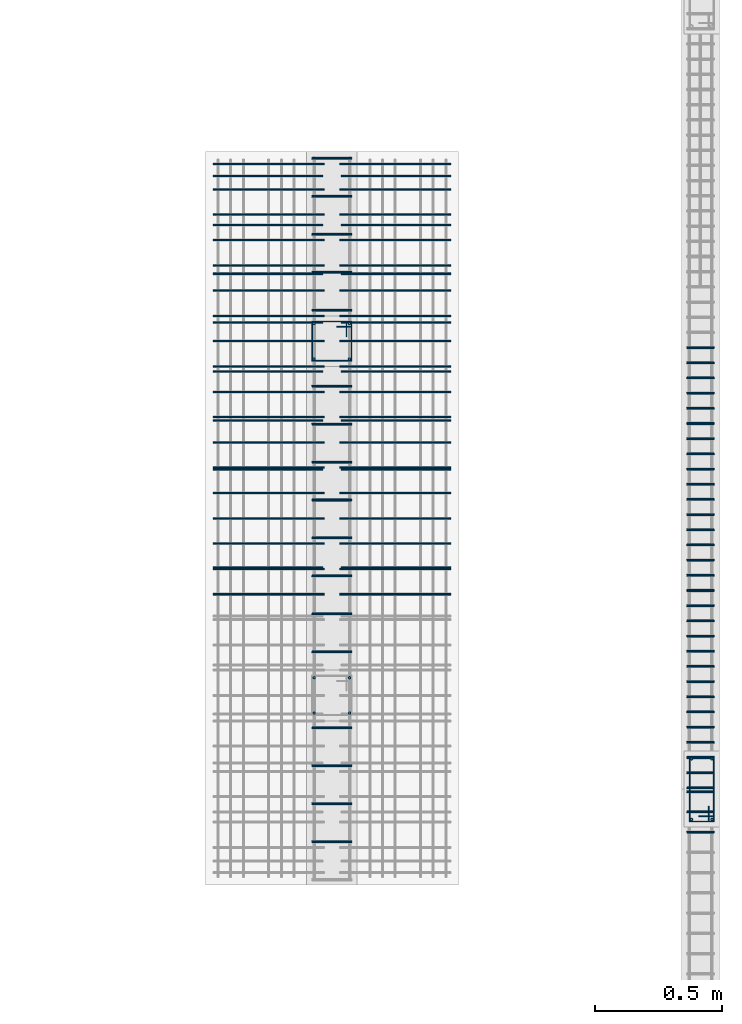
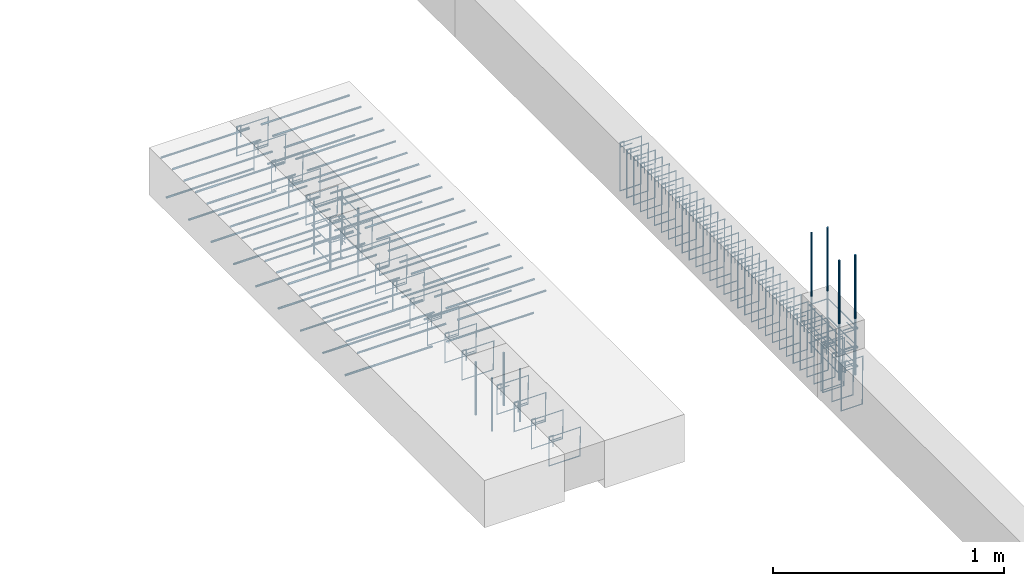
# One storey, part 143 of 150: 122 reinforcing bars.
"""IFC4 building model written with IfcOpenShell, lengths in centimetres."""

from ifc_helpers import new_model, entity, si_unit, derived_unit, frame, origin_with_axes, place, context, project, spatial, source, transform, mapped, element, save


model = new_model("IFC4")

# Units and contexts
model_context = context("Model", 3, precision=1e-05, world=origin_with_axes(), identifier="Body")
ifc_project = project(units=[si_unit("LENGTHUNIT", "METRE", prefix="CENTI"), si_unit("VOLUMEUNIT", "CUBIC_METRE"), si_unit("AREAUNIT", "SQUARE_METRE"), si_unit("POWERUNIT", "WATT"), si_unit("LUMINOUSFLUXUNIT", "LUMEN"), si_unit("ELECTRICCURRENTUNIT", "AMPERE"), si_unit("PRESSUREUNIT", "PASCAL", prefix="KILO"), si_unit("MASSUNIT", "GRAM", prefix="KILO"), si_unit("PLANEANGLEUNIT", "RADIAN"), derived_unit("VOLUMETRICFLOWRATEUNIT", [(si_unit("LENGTHUNIT", "METRE"), 3), (si_unit("TIMEUNIT", "SECOND"), -1)])], contexts=[model_context])

# Site, building, storey
site_placement = place(None, frame((-4000.0, 0.0, 0.0), z_axis=(0.0, 0.0, 1.0), x_axis=(1.0, 0.0, 0.0)))
site = spatial("IfcSite", under=ifc_project, at=site_placement, Name="PADRÃO")
building_placement = place(site_placement, frame((0.0, 0.0, -14.0)))
building = spatial("IfcBuilding", under=site, at=building_placement, Name="CRECHE PRÉ-ESCOLA TIPO 2")
placement = place(building_placement, origin_with_axes())
storey_placement = place(placement, frame((0.0, 0.0, 30.0), z_axis=(0.0, 0.0, 1.0), x_axis=(1.0, 0.0, 0.0)))
storey = spatial("IfcBuildingStorey", under=building, at=storey_placement, Name="VIGA BALDRAME", CompositionType="ELEMENT", Elevation=16.0)

# Reinforcing bars
shared_shape_1 = source(origin_with_axes(), model_context, "Body", "AdvancedSweptSolid", [
    entity("IfcSweptDiskSolid", entity("IfcCompositeCurve", [entity("IfcCompositeCurveSegment", "CONTINUOUS", True, entity("IfcPolyline", [entity("IfcCartesianPoint", [4.25, 21.75, 0.0]), entity("IfcCartesianPoint", [4.25, 27.75, 0.0])])), entity("IfcCompositeCurveSegment", "CONTINUOUS", True, entity("IfcPolyline", [entity("IfcCartesianPoint", [4.25, 27.75, 0.0]), entity("IfcCartesianPoint", [2.25, 27.75, 0.0])])), entity("IfcCompositeCurveSegment", "CONTINUOUS", True, entity("IfcPolyline", [entity("IfcCartesianPoint", [2.25, 27.75, 0.0]), entity("IfcCartesianPoint", [2.25, 2.25, 0.0])])), entity("IfcCompositeCurveSegment", "CONTINUOUS", True, entity("IfcPolyline", [entity("IfcCartesianPoint", [2.25, 2.25, 0.0]), entity("IfcCartesianPoint", [11.75, 2.25, 0.0])])), entity("IfcCompositeCurveSegment", "CONTINUOUS", True, entity("IfcPolyline", [entity("IfcCartesianPoint", [11.75, 2.25, 0.0]), entity("IfcCartesianPoint", [11.75, 27.75, -0.5])])), entity("IfcCompositeCurveSegment", "CONTINUOUS", True, entity("IfcPolyline", [entity("IfcCartesianPoint", [11.75, 27.75, -0.5]), entity("IfcCartesianPoint", [2.25, 27.75, -0.5])])), entity("IfcCompositeCurveSegment", "CONTINUOUS", True, entity("IfcPolyline", [entity("IfcCartesianPoint", [2.25, 27.75, -0.5]), entity("IfcCartesianPoint", [2.25, 25.75, -0.5])])), entity("IfcCompositeCurveSegment", "CONTINUOUS", True, entity("IfcPolyline", [entity("IfcCartesianPoint", [2.25, 25.75, -0.5]), entity("IfcCartesianPoint", [8.25, 25.75, -0.5])]))], False), 0.25),
])
for number, where, z_axis, x_axis, name in (
    (1, (3999.0, 3243.0, -15.0), (0.0, 0.0, 1.0), (-1.0, 0.0, 0.0), "P57 - Estribo"),
    (2, (3999.0, 3243.0, -25.0), (0.0, 0.0, 1.0), (-1.0, 0.0, 0.0), "P57 - Estribo"),
    (3, (3999.0, 3243.0, -5.0), (0.0, 0.0, 1.0), (-1.0, 0.0, 0.0), "P57 - Estribo"),
):
    element("IfcReinforcingBar", number, at=place(storey_placement, frame(where, z_axis=z_axis, x_axis=x_axis)), inside=storey, Name=name, BarLength=0.0, CrossSectionArea=1.9634954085e-05, NominalDiameter=0.5, PredefinedType="MAIN", context=model_context, shape_type="MappedRepresentation", body=[
        mapped(shared_shape_1, transform((0.0, 0.0, 0.0), scale=1.0)),
    ])
shared_shape_2 = source(origin_with_axes(), model_context, "Body", "AdvancedSweptSolid", [
    entity("IfcSweptDiskSolid", entity("IfcCompositeCurve", [entity("IfcCompositeCurveSegment", "CONTINUOUS", True, entity("IfcPolyline", [entity("IfcCartesianPoint", [4.25, 11.75, 0.0]), entity("IfcCartesianPoint", [4.25, 17.75, 0.0])])), entity("IfcCompositeCurveSegment", "CONTINUOUS", True, entity("IfcPolyline", [entity("IfcCartesianPoint", [4.25, 17.75, 0.0]), entity("IfcCartesianPoint", [2.25, 17.75, 0.0])])), entity("IfcCompositeCurveSegment", "CONTINUOUS", True, entity("IfcPolyline", [entity("IfcCartesianPoint", [2.25, 17.75, 0.0]), entity("IfcCartesianPoint", [2.25, 2.25, 0.0])])), entity("IfcCompositeCurveSegment", "CONTINUOUS", True, entity("IfcPolyline", [entity("IfcCartesianPoint", [2.25, 2.25, 0.0]), entity("IfcCartesianPoint", [17.75, 2.25, 0.0])])), entity("IfcCompositeCurveSegment", "CONTINUOUS", True, entity("IfcPolyline", [entity("IfcCartesianPoint", [17.75, 2.25, 0.0]), entity("IfcCartesianPoint", [17.75, 17.75, -0.5])])), entity("IfcCompositeCurveSegment", "CONTINUOUS", True, entity("IfcPolyline", [entity("IfcCartesianPoint", [17.75, 17.75, -0.5]), entity("IfcCartesianPoint", [2.25, 17.75, -0.5])])), entity("IfcCompositeCurveSegment", "CONTINUOUS", True, entity("IfcPolyline", [entity("IfcCartesianPoint", [2.25, 17.75, -0.5]), entity("IfcCartesianPoint", [2.25, 15.75, -0.5])])), entity("IfcCompositeCurveSegment", "CONTINUOUS", True, entity("IfcPolyline", [entity("IfcCartesianPoint", [2.25, 15.75, -0.5]), entity("IfcCartesianPoint", [8.25, 15.75, -0.5])]))], False), 0.25),
])
for number, where, z_axis, x_axis, name in (
    (4, (3835.84, 3415.02, -5.0), (0.0, 0.0, 1.0), (0.0, -1.0, 0.0), "PM1 - Estribo"),
    (5, (3835.84, 3415.02, -15.0), (0.0, 0.0, 1.0), (0.0, -1.0, 0.0), "PM1 - Estribo"),
    (6, (3835.84, 3415.02, -25.0), (0.0, 0.0, 1.0), (0.0, -1.0, 0.0), "PM1 - Estribo"),
):
    element("IfcReinforcingBar", number, at=place(storey_placement, frame(where, z_axis=z_axis, x_axis=x_axis)), inside=storey, Name=name, BarLength=0.0, CrossSectionArea=1.9634954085e-05, NominalDiameter=0.5, PredefinedType="MAIN", context=model_context, shape_type="MappedRepresentation", body=[
        mapped(shared_shape_2, transform((0.0, 0.0, 0.0), scale=1.0)),
    ])
shared_shape_3 = source(origin_with_axes(), model_context, "Body", "AdvancedSweptSolid", [
    entity("IfcSweptDiskSolid", entity("IfcCompositeCurve", [entity("IfcCompositeCurveSegment", "CONTINUOUS", True, entity("IfcPolyline", [entity("IfcCartesianPoint", [2.0, -6.0, 0.0]), entity("IfcCartesianPoint", [2.0, 0.0, 0.0])])), entity("IfcCompositeCurveSegment", "CONTINUOUS", True, entity("IfcPolyline", [entity("IfcCartesianPoint", [2.0, 0.0, 0.0]), entity("IfcCartesianPoint", [0.0, 0.0, 0.0])])), entity("IfcCompositeCurveSegment", "CONTINUOUS", True, entity("IfcPolyline", [entity("IfcCartesianPoint", [0.0, 0.0, 0.0]), entity("IfcCartesianPoint", [0.0, -25.5, 0.0])])), entity("IfcCompositeCurveSegment", "CONTINUOUS", True, entity("IfcPolyline", [entity("IfcCartesianPoint", [0.0, -25.5, 0.0]), entity("IfcCartesianPoint", [10.5, -25.5, 0.0])])), entity("IfcCompositeCurveSegment", "CONTINUOUS", True, entity("IfcPolyline", [entity("IfcCartesianPoint", [10.5, -25.5, 0.0]), entity("IfcCartesianPoint", [10.5, 0.0, 0.5])])), entity("IfcCompositeCurveSegment", "CONTINUOUS", True, entity("IfcPolyline", [entity("IfcCartesianPoint", [10.5, 0.0, 0.5]), entity("IfcCartesianPoint", [0.0, 0.0, 0.5])])), entity("IfcCompositeCurveSegment", "CONTINUOUS", True, entity("IfcPolyline", [entity("IfcCartesianPoint", [0.0, 0.0, 0.5]), entity("IfcCartesianPoint", [0.0, -2.0, 0.5])])), entity("IfcCompositeCurveSegment", "CONTINUOUS", True, entity("IfcPolyline", [entity("IfcCartesianPoint", [0.0, -2.0, 0.5]), entity("IfcCartesianPoint", [6.0, -2.0, 0.5])]))], False), 0.25),
])
for number, where, z_axis, x_axis, name in (
    (7, (3986.25, 3227.25, -17.25), (0.0, -1.0, 0.0), (1.0, 0.0, 0.0), "V230 - Estribo"),
    (8, (3986.25, 3219.25, -17.25), (0.0, -1.0, 0.0), (1.0, 0.0, 0.0), "V230 - Estribo"),
    (9, (3986.25, 3211.25, -17.25), (0.0, -1.0, 0.0), (1.0, 0.0, 0.0), "V230 - Estribo"),
):
    element("IfcReinforcingBar", number, at=place(storey_placement, frame(where, z_axis=z_axis, x_axis=x_axis)), inside=storey, Name=name, BarLength=0.0, CrossSectionArea=1.9634954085e-05, NominalDiameter=0.5, PredefinedType="MAIN", context=model_context, shape_type="MappedRepresentation", body=[
        mapped(shared_shape_3, transform((0.0, 0.0, 0.0), scale=1.0)),
    ])
shared_shape_4 = source(origin_with_axes(), model_context, "Body", "AdvancedSweptSolid", [
    entity("IfcSweptDiskSolid", entity("IfcCompositeCurve", [entity("IfcCompositeCurveSegment", "CONTINUOUS", True, entity("IfcPolyline", [entity("IfcCartesianPoint", [2.0, -6.0, 0.0]), entity("IfcCartesianPoint", [2.0, 0.0, 0.0])])), entity("IfcCompositeCurveSegment", "CONTINUOUS", True, entity("IfcPolyline", [entity("IfcCartesianPoint", [2.0, 0.0, 0.0]), entity("IfcCartesianPoint", [0.0, 0.0, 0.0])])), entity("IfcCompositeCurveSegment", "CONTINUOUS", True, entity("IfcPolyline", [entity("IfcCartesianPoint", [0.0, 0.0, 0.0]), entity("IfcCartesianPoint", [0.0, -25.5, 0.0])])), entity("IfcCompositeCurveSegment", "CONTINUOUS", True, entity("IfcPolyline", [entity("IfcCartesianPoint", [0.0, -25.5, 0.0]), entity("IfcCartesianPoint", [10.5, -25.5, 0.0])])), entity("IfcCompositeCurveSegment", "CONTINUOUS", True, entity("IfcPolyline", [entity("IfcCartesianPoint", [10.5, -25.5, 0.0]), entity("IfcCartesianPoint", [10.5, 0.0, 0.5])])), entity("IfcCompositeCurveSegment", "CONTINUOUS", True, entity("IfcPolyline", [entity("IfcCartesianPoint", [10.5, 0.0, 0.5]), entity("IfcCartesianPoint", [0.0, 0.0, 0.5])])), entity("IfcCompositeCurveSegment", "CONTINUOUS", True, entity("IfcPolyline", [entity("IfcCartesianPoint", [0.0, 0.0, 0.5]), entity("IfcCartesianPoint", [0.0, -2.0, 0.5])])), entity("IfcCompositeCurveSegment", "CONTINUOUS", True, entity("IfcPolyline", [entity("IfcCartesianPoint", [0.0, -2.0, 0.5]), entity("IfcCartesianPoint", [6.0, -2.0, 0.5])]))], False), 0.25),
])
for number, where, z_axis, x_axis, name in (
    (10, (3986.25, 3402.75, -17.25), (0.0, -1.0, 0.0), (1.0, 0.0, 0.0), "V230 - Estribo"),
    (11, (3986.25, 3396.75, -17.25), (0.0, -1.0, 0.0), (1.0, 0.0, 0.0), "V230 - Estribo"),
    (12, (3986.25, 3390.75, -17.25), (0.0, -1.0, 0.0), (1.0, 0.0, 0.0), "V230 - Estribo"),
    (13, (3986.25, 3384.75, -17.25), (0.0, -1.0, 0.0), (1.0, 0.0, 0.0), "V230 - Estribo"),
    (14, (3986.25, 3378.75, -17.25), (0.0, -1.0, 0.0), (1.0, 0.0, 0.0), "V230 - Estribo"),
    (15, (3986.25, 3372.75, -17.25), (0.0, -1.0, 0.0), (1.0, 0.0, 0.0), "V230 - Estribo"),
    (16, (3986.25, 3366.75, -17.25), (0.0, -1.0, 0.0), (1.0, 0.0, 0.0), "V230 - Estribo"),
    (17, (3986.25, 3360.75, -17.25), (0.0, -1.0, 0.0), (1.0, 0.0, 0.0), "V230 - Estribo"),
    (18, (3986.25, 3354.75, -17.25), (0.0, -1.0, 0.0), (1.0, 0.0, 0.0), "V230 - Estribo"),
    (19, (3986.25, 3348.75, -17.25), (0.0, -1.0, 0.0), (1.0, 0.0, 0.0), "V230 - Estribo"),
    (20, (3986.25, 3342.75, -17.25), (0.0, -1.0, 0.0), (1.0, 0.0, 0.0), "V230 - Estribo"),
    (21, (3986.25, 3336.75, -17.25), (0.0, -1.0, 0.0), (1.0, 0.0, 0.0), "V230 - Estribo"),
    (22, (3986.25, 3330.75, -17.25), (0.0, -1.0, 0.0), (1.0, 0.0, 0.0), "V230 - Estribo"),
    (23, (3986.25, 3324.75, -17.25), (0.0, -1.0, 0.0), (1.0, 0.0, 0.0), "V230 - Estribo"),
    (24, (3986.25, 3318.75, -17.25), (0.0, -1.0, 0.0), (1.0, 0.0, 0.0), "V230 - Estribo"),
    (25, (3986.25, 3312.75, -17.25), (0.0, -1.0, 0.0), (1.0, 0.0, 0.0), "V230 - Estribo"),
    (26, (3986.25, 3306.75, -17.25), (0.0, -1.0, 0.0), (1.0, 0.0, 0.0), "V230 - Estribo"),
    (27, (3986.25, 3300.75, -17.25), (0.0, -1.0, 0.0), (1.0, 0.0, 0.0), "V230 - Estribo"),
    (28, (3986.25, 3294.75, -17.25), (0.0, -1.0, 0.0), (1.0, 0.0, 0.0), "V230 - Estribo"),
    (29, (3986.25, 3288.75, -17.25), (0.0, -1.0, 0.0), (1.0, 0.0, 0.0), "V230 - Estribo"),
    (30, (3986.25, 3282.75, -17.25), (0.0, -1.0, 0.0), (1.0, 0.0, 0.0), "V230 - Estribo"),
    (31, (3986.25, 3276.75, -17.25), (0.0, -1.0, 0.0), (1.0, 0.0, 0.0), "V230 - Estribo"),
    (32, (3986.25, 3270.75, -17.25), (0.0, -1.0, 0.0), (1.0, 0.0, 0.0), "V230 - Estribo"),
    (33, (3986.25, 3264.75, -17.25), (0.0, -1.0, 0.0), (1.0, 0.0, 0.0), "V230 - Estribo"),
    (34, (3986.25, 3258.75, -17.25), (0.0, -1.0, 0.0), (1.0, 0.0, 0.0), "V230 - Estribo"),
    (35, (3986.25, 3252.75, -17.25), (0.0, -1.0, 0.0), (1.0, 0.0, 0.0), "V230 - Estribo"),
    (36, (3986.25, 3246.75, -17.25), (0.0, -1.0, 0.0), (1.0, 0.0, 0.0), "V230 - Estribo"),
    (37, (3986.25, 3240.75, -17.25), (0.0, -1.0, 0.0), (1.0, 0.0, 0.0), "V230 - Estribo"),
    (38, (3986.25, 3234.75, -17.25), (0.0, -1.0, 0.0), (1.0, 0.0, 0.0), "V230 - Estribo"),
    (39, (3986.25, 3228.75, -17.25), (0.0, -1.0, 0.0), (1.0, 0.0, 0.0), "V230 - Estribo"),
):
    element("IfcReinforcingBar", number, at=place(storey_placement, frame(where, z_axis=z_axis, x_axis=x_axis)), inside=storey, Name=name, BarLength=0.0, CrossSectionArea=1.9634954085e-05, NominalDiameter=0.5, PredefinedType="MAIN", context=model_context, shape_type="MappedRepresentation", body=[
        mapped(shared_shape_4, transform((0.0, 0.0, 0.0), scale=1.0)),
    ])
shared_shape_5 = source(origin_with_axes(), model_context, "Body", "AdvancedSweptSolid", [
    entity("IfcSweptDiskSolid", entity("IfcCompositeCurve", [entity("IfcCompositeCurveSegment", "CONTINUOUS", True, entity("IfcPolyline", [entity("IfcCartesianPoint", [2.0, -6.0, 0.0]), entity("IfcCartesianPoint", [2.0, 0.0, 0.0])])), entity("IfcCompositeCurveSegment", "CONTINUOUS", True, entity("IfcPolyline", [entity("IfcCartesianPoint", [2.0, 0.0, 0.0]), entity("IfcCartesianPoint", [0.0, 0.0, 0.0])])), entity("IfcCompositeCurveSegment", "CONTINUOUS", True, entity("IfcPolyline", [entity("IfcCartesianPoint", [0.0, 0.0, 0.0]), entity("IfcCartesianPoint", [0.0, -15.5, 0.0])])), entity("IfcCompositeCurveSegment", "CONTINUOUS", True, entity("IfcPolyline", [entity("IfcCartesianPoint", [0.0, -15.5, 0.0]), entity("IfcCartesianPoint", [15.5, -15.5, 0.0])])), entity("IfcCompositeCurveSegment", "CONTINUOUS", True, entity("IfcPolyline", [entity("IfcCartesianPoint", [15.5, -15.5, 0.0]), entity("IfcCartesianPoint", [15.5, 0.0, 0.5])])), entity("IfcCompositeCurveSegment", "CONTINUOUS", True, entity("IfcPolyline", [entity("IfcCartesianPoint", [15.5, 0.0, 0.5]), entity("IfcCartesianPoint", [0.0, 0.0, 0.5])])), entity("IfcCompositeCurveSegment", "CONTINUOUS", True, entity("IfcPolyline", [entity("IfcCartesianPoint", [0.0, 0.0, 0.5]), entity("IfcCartesianPoint", [0.0, -2.0, 0.5])])), entity("IfcCompositeCurveSegment", "CONTINUOUS", True, entity("IfcPolyline", [entity("IfcCartesianPoint", [0.0, -2.0, 0.5]), entity("IfcCartesianPoint", [6.0, -2.0, 0.5])]))], False), 0.25),
])
for number, where, z_axis, x_axis, name in (
    (40, (3838.09, 3207.52, -2.25), (0.0, -1.0, 0.0), (1.0, 0.0, 0.0), "VM1 - Estribo"),
    (41, (3838.09, 3222.52, -2.25), (0.0, -1.0, 0.0), (1.0, 0.0, 0.0), "VM1 - Estribo"),
    (42, (3838.09, 3237.52, -2.25), (0.0, -1.0, 0.0), (1.0, 0.0, 0.0), "VM1 - Estribo"),
    (43, (3838.09, 3252.52, -2.25), (0.0, -1.0, 0.0), (1.0, 0.0, 0.0), "VM1 - Estribo"),
):
    element("IfcReinforcingBar", number, at=place(storey_placement, frame(where, z_axis=z_axis, x_axis=x_axis)), inside=storey, Name=name, BarLength=0.0, CrossSectionArea=1.9634954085e-05, NominalDiameter=0.5, PredefinedType="MAIN", context=model_context, shape_type="MappedRepresentation", body=[
        mapped(shared_shape_5, transform((0.0, 0.0, 0.0), scale=1.0)),
    ])
shared_shape_6 = source(origin_with_axes(), model_context, "Body", "AdvancedSweptSolid", [
    entity("IfcSweptDiskSolid", entity("IfcCompositeCurve", [entity("IfcCompositeCurveSegment", "CONTINUOUS", True, entity("IfcPolyline", [entity("IfcCartesianPoint", [2.0, -6.0, 0.0]), entity("IfcCartesianPoint", [2.0, 0.0, 0.0])])), entity("IfcCompositeCurveSegment", "CONTINUOUS", True, entity("IfcPolyline", [entity("IfcCartesianPoint", [2.0, 0.0, 0.0]), entity("IfcCartesianPoint", [0.0, 0.0, 0.0])])), entity("IfcCompositeCurveSegment", "CONTINUOUS", True, entity("IfcPolyline", [entity("IfcCartesianPoint", [0.0, 0.0, 0.0]), entity("IfcCartesianPoint", [0.0, -15.5, 0.0])])), entity("IfcCompositeCurveSegment", "CONTINUOUS", True, entity("IfcPolyline", [entity("IfcCartesianPoint", [0.0, -15.5, 0.0]), entity("IfcCartesianPoint", [15.5, -15.5, 0.0])])), entity("IfcCompositeCurveSegment", "CONTINUOUS", True, entity("IfcPolyline", [entity("IfcCartesianPoint", [15.5, -15.5, 0.0]), entity("IfcCartesianPoint", [15.5, 0.0, 0.5])])), entity("IfcCompositeCurveSegment", "CONTINUOUS", True, entity("IfcPolyline", [entity("IfcCartesianPoint", [15.5, 0.0, 0.5]), entity("IfcCartesianPoint", [0.0, 0.0, 0.5])])), entity("IfcCompositeCurveSegment", "CONTINUOUS", True, entity("IfcPolyline", [entity("IfcCartesianPoint", [0.0, 0.0, 0.5]), entity("IfcCartesianPoint", [0.0, -2.0, 0.5])])), entity("IfcCompositeCurveSegment", "CONTINUOUS", True, entity("IfcPolyline", [entity("IfcCartesianPoint", [0.0, -2.0, 0.5]), entity("IfcCartesianPoint", [6.0, -2.0, 0.5])]))], False), 0.25),
])
for number, where, z_axis, x_axis, name in (
    (44, (3838.09, 3282.52, -2.25), (0.0, -1.0, 0.0), (1.0, 0.0, 0.0), "VM1 - Estribo"),
    (45, (3838.09, 3297.52, -2.25), (0.0, -1.0, 0.0), (1.0, 0.0, 0.0), "VM1 - Estribo"),
    (46, (3838.09, 3312.52, -2.25), (0.0, -1.0, 0.0), (1.0, 0.0, 0.0), "VM1 - Estribo"),
    (47, (3838.09, 3327.52, -2.25), (0.0, -1.0, 0.0), (1.0, 0.0, 0.0), "VM1 - Estribo"),
    (48, (3838.09, 3342.52, -2.25), (0.0, -1.0, 0.0), (1.0, 0.0, 0.0), "VM1 - Estribo"),
    (49, (3838.09, 3357.52, -2.25), (0.0, -1.0, 0.0), (1.0, 0.0, 0.0), "VM1 - Estribo"),
    (50, (3838.09, 3372.52, -2.25), (0.0, -1.0, 0.0), (1.0, 0.0, 0.0), "VM1 - Estribo"),
    (51, (3838.09, 3387.52, -2.25), (0.0, -1.0, 0.0), (1.0, 0.0, 0.0), "VM1 - Estribo"),
):
    element("IfcReinforcingBar", number, at=place(storey_placement, frame(where, z_axis=z_axis, x_axis=x_axis)), inside=storey, Name=name, BarLength=0.0, CrossSectionArea=1.9634954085e-05, NominalDiameter=0.5, PredefinedType="MAIN", context=model_context, shape_type="MappedRepresentation", body=[
        mapped(shared_shape_6, transform((0.0, 0.0, 0.0), scale=1.0)),
    ])
shared_shape_7 = source(origin_with_axes(), model_context, "Body", "AdvancedSweptSolid", [
    entity("IfcSweptDiskSolid", entity("IfcCompositeCurve", [entity("IfcCompositeCurveSegment", "CONTINUOUS", True, entity("IfcPolyline", [entity("IfcCartesianPoint", [2.0, -6.0, 0.0]), entity("IfcCartesianPoint", [2.0, 0.0, 0.0])])), entity("IfcCompositeCurveSegment", "CONTINUOUS", True, entity("IfcPolyline", [entity("IfcCartesianPoint", [2.0, 0.0, 0.0]), entity("IfcCartesianPoint", [0.0, 0.0, 0.0])])), entity("IfcCompositeCurveSegment", "CONTINUOUS", True, entity("IfcPolyline", [entity("IfcCartesianPoint", [0.0, 0.0, 0.0]), entity("IfcCartesianPoint", [0.0, -15.5, 0.0])])), entity("IfcCompositeCurveSegment", "CONTINUOUS", True, entity("IfcPolyline", [entity("IfcCartesianPoint", [0.0, -15.5, 0.0]), entity("IfcCartesianPoint", [15.5, -15.5, 0.0])])), entity("IfcCompositeCurveSegment", "CONTINUOUS", True, entity("IfcPolyline", [entity("IfcCartesianPoint", [15.5, -15.5, 0.0]), entity("IfcCartesianPoint", [15.5, 0.0, 0.5])])), entity("IfcCompositeCurveSegment", "CONTINUOUS", True, entity("IfcPolyline", [entity("IfcCartesianPoint", [15.5, 0.0, 0.5]), entity("IfcCartesianPoint", [0.0, 0.0, 0.5])])), entity("IfcCompositeCurveSegment", "CONTINUOUS", True, entity("IfcPolyline", [entity("IfcCartesianPoint", [0.0, 0.0, 0.5]), entity("IfcCartesianPoint", [0.0, -2.0, 0.5])])), entity("IfcCompositeCurveSegment", "CONTINUOUS", True, entity("IfcPolyline", [entity("IfcCartesianPoint", [0.0, -2.0, 0.5]), entity("IfcCartesianPoint", [6.0, -2.0, 0.5])]))], False), 0.25),
])
for number, where, z_axis, x_axis, name in (
    (52, (3838.09, 3417.52, -2.25), (0.0, -1.0, 0.0), (1.0, 0.0, 0.0), "VM1 - Estribo"),
    (53, (3838.09, 3432.52, -2.25), (0.0, -1.0, 0.0), (1.0, 0.0, 0.0), "VM1 - Estribo"),
    (54, (3838.09, 3447.52, -2.25), (0.0, -1.0, 0.0), (1.0, 0.0, 0.0), "VM1 - Estribo"),
    (55, (3838.09, 3462.52, -2.25), (0.0, -1.0, 0.0), (1.0, 0.0, 0.0), "VM1 - Estribo"),
    (56, (3838.09, 3477.52, -2.25), (0.0, -1.0, 0.0), (1.0, 0.0, 0.0), "VM1 - Estribo"),
):
    element("IfcReinforcingBar", number, at=place(storey_placement, frame(where, z_axis=z_axis, x_axis=x_axis)), inside=storey, Name=name, BarLength=0.0, CrossSectionArea=1.9634954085e-05, NominalDiameter=0.5, PredefinedType="MAIN", context=model_context, shape_type="MappedRepresentation", body=[
        mapped(shared_shape_7, transform((0.0, 0.0, 0.0), scale=1.0)),
    ])
for number, where, z_axis, x_axis, name in (
    (57, (3820.545, 3315.68666666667, -21.2), (0.0, 0.0, 1.0), (1.0, 0.0, 0.0), "LM1 - Inferior X"),
    (58, (3820.545, 3335.02, -21.2), (0.0, 0.0, 1.0), (1.0, 0.0, 0.0), "LM1 - Inferior X"),
    (59, (3820.545, 3470.35333333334, -21.2), (0.0, 0.0, 1.0), (1.0, 0.0, 0.0), "LM1 - Inferior X"),
    (60, (3820.545, 3451.02, -21.2), (0.0, 0.0, 1.0), (1.0, 0.0, 0.0), "LM1 - Inferior X"),
    (61, (3820.545, 3373.68666666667, -21.2), (0.0, 0.0, 1.0), (1.0, 0.0, 0.0), "LM1 - Inferior X"),
    (62, (3820.545, 3354.35333333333, -21.2), (0.0, 0.0, 1.0), (1.0, 0.0, 0.0), "LM1 - Inferior X"),
    (63, (3820.545, 3412.35333333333, -21.2), (0.0, 0.0, 1.0), (1.0, 0.0, 0.0), "LM1 - Inferior X"),
    (64, (3820.545, 3431.68666666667, -21.2), (0.0, 0.0, 1.0), (1.0, 0.0, 0.0), "LM1 - Inferior X"),
    (65, (3820.545, 3393.02, -21.2), (0.0, 0.0, 1.0), (1.0, 0.0, 0.0), "LM1 - Inferior X"),
):
    element("IfcReinforcingBar", number, at=place(storey_placement, frame(where, z_axis=z_axis, x_axis=x_axis)), inside=storey, Name=name, BarLength=0.0, CrossSectionArea=5.0265482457e-05, NominalDiameter=0.8, PredefinedType="MAIN", context=model_context, shape_type="AdvancedSweptSolid", body=[
        entity("IfcSweptDiskSolid", entity("IfcCompositeCurve", [entity("IfcCompositeCurveSegment", "CONTINUOUS", True, entity("IfcPolyline", [entity("IfcCartesianPoint", [-21.695, 0.0, -0.4]), entity("IfcCartesianPoint", [21.695, 0.0, -0.4])]))], False), 0.4),
    ])
for number, where, z_axis, x_axis, name in (
    (66, (3820.84, 3305.02, -3.0), (0.0, 0.0, 1.0), (1.0, 0.0, 0.0), "LM1 - Superior X"),
    (67, (3820.84, 3315.02, -3.0), (0.0, 0.0, 1.0), (1.0, 0.0, 0.0), "LM1 - Superior X"),
    (68, (3820.84, 3455.02, -3.0), (0.0, 0.0, 1.0), (1.0, 0.0, 0.0), "LM1 - Superior X"),
    (69, (3820.84, 3465.02, -3.0), (0.0, 0.0, 1.0), (1.0, 0.0, 0.0), "LM1 - Superior X"),
    (70, (3820.84, 3475.02, -3.0), (0.0, 0.0, 1.0), (1.0, 0.0, 0.0), "LM1 - Superior X"),
    (71, (3820.84, 3335.02, -3.0), (0.0, 0.0, 1.0), (1.0, 0.0, 0.0), "LM1 - Superior X"),
    (72, (3820.84, 3445.02, -3.0), (0.0, 0.0, 1.0), (1.0, 0.0, 0.0), "LM1 - Superior X"),
    (73, (3820.84, 3435.02, -3.0), (0.0, 0.0, 1.0), (1.0, 0.0, 0.0), "LM1 - Superior X"),
    (74, (3820.84, 3345.02, -3.0), (0.0, 0.0, 1.0), (1.0, 0.0, 0.0), "LM1 - Superior X"),
    (75, (3820.84, 3355.02, -3.0), (0.0, 0.0, 1.0), (1.0, 0.0, 0.0), "LM1 - Superior X"),
    (76, (3820.84, 3365.02, -3.0), (0.0, 0.0, 1.0), (1.0, 0.0, 0.0), "LM1 - Superior X"),
    (77, (3820.84, 3375.02, -3.0), (0.0, 0.0, 1.0), (1.0, 0.0, 0.0), "LM1 - Superior X"),
    (78, (3820.84, 3325.02, -3.0), (0.0, 0.0, 1.0), (1.0, 0.0, 0.0), "LM1 - Superior X"),
    (79, (3820.84, 3425.02, -3.0), (0.0, 0.0, 1.0), (1.0, 0.0, 0.0), "LM1 - Superior X"),
    (80, (3820.84, 3415.02, -3.0), (0.0, 0.0, 1.0), (1.0, 0.0, 0.0), "LM1 - Superior X"),
    (81, (3820.84, 3405.02, -3.0), (0.0, 0.0, 1.0), (1.0, 0.0, 0.0), "LM1 - Superior X"),
    (82, (3820.84, 3395.02, -3.0), (0.0, 0.0, 1.0), (1.0, 0.0, 0.0), "LM1 - Superior X"),
    (83, (3820.84, 3385.02, -3.0), (0.0, 0.0, 1.0), (1.0, 0.0, 0.0), "LM1 - Superior X"),
):
    element("IfcReinforcingBar", number, at=place(storey_placement, frame(where, z_axis=z_axis, x_axis=x_axis)), inside=storey, Name=name, BarLength=0.0, CrossSectionArea=5.0265482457e-05, NominalDiameter=0.8, PredefinedType="MAIN", context=model_context, shape_type="AdvancedSweptSolid", body=[
        entity("IfcSweptDiskSolid", entity("IfcCompositeCurve", [entity("IfcCompositeCurveSegment", "CONTINUOUS", True, entity("IfcPolyline", [entity("IfcCartesianPoint", [-22.0, 0.0, -0.4]), entity("IfcCartesianPoint", [22.0, 0.0, -0.4])]))], False), 0.4),
    ])
for number, where, z_axis, x_axis, name in (
    (84, (3871.145, 3470.35333333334, -21.2), (0.0, 0.0, 1.0), (1.0, 0.0, 0.0), "LM2 - Inferior X"),
    (85, (3871.145, 3451.02, -21.2), (0.0, 0.0, 1.0), (1.0, 0.0, 0.0), "LM2 - Inferior X"),
    (86, (3871.145, 3431.68666666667, -21.2), (0.0, 0.0, 1.0), (1.0, 0.0, 0.0), "LM2 - Inferior X"),
    (87, (3871.145, 3412.35333333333, -21.2), (0.0, 0.0, 1.0), (1.0, 0.0, 0.0), "LM2 - Inferior X"),
    (88, (3871.145, 3393.02, -21.2), (0.0, 0.0, 1.0), (1.0, 0.0, 0.0), "LM2 - Inferior X"),
    (89, (3871.145, 3373.68666666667, -21.2), (0.0, 0.0, 1.0), (1.0, 0.0, 0.0), "LM2 - Inferior X"),
    (90, (3871.145, 3354.35333333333, -21.2), (0.0, 0.0, 1.0), (1.0, 0.0, 0.0), "LM2 - Inferior X"),
    (91, (3871.145, 3315.68666666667, -21.2), (0.0, 0.0, 1.0), (1.0, 0.0, 0.0), "LM2 - Inferior X"),
    (92, (3871.145, 3335.02, -21.2), (0.0, 0.0, 1.0), (1.0, 0.0, 0.0), "LM2 - Inferior X"),
):
    element("IfcReinforcingBar", number, at=place(storey_placement, frame(where, z_axis=z_axis, x_axis=x_axis)), inside=storey, Name=name, BarLength=0.0, CrossSectionArea=5.0265482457e-05, NominalDiameter=0.8, PredefinedType="MAIN", context=model_context, shape_type="AdvancedSweptSolid", body=[
        entity("IfcSweptDiskSolid", entity("IfcCompositeCurve", [entity("IfcCompositeCurveSegment", "CONTINUOUS", True, entity("IfcPolyline", [entity("IfcCartesianPoint", [-21.695, 0.0, -0.4]), entity("IfcCartesianPoint", [21.695, 0.0, -0.4])]))], False), 0.4),
    ])
for number, where, z_axis, x_axis, name in (
    (93, (3870.84, 3425.02, -3.0), (0.0, 0.0, 1.0), (1.0, 0.0, 0.0), "LM2 - Superior X"),
    (94, (3870.84, 3435.02, -3.0), (0.0, 0.0, 1.0), (1.0, 0.0, 0.0), "LM2 - Superior X"),
    (95, (3870.84, 3445.02, -3.0), (0.0, 0.0, 1.0), (1.0, 0.0, 0.0), "LM2 - Superior X"),
    (96, (3870.84, 3395.02, -3.0), (0.0, 0.0, 1.0), (1.0, 0.0, 0.0), "LM2 - Superior X"),
    (97, (3870.84, 3385.02, -3.0), (0.0, 0.0, 1.0), (1.0, 0.0, 0.0), "LM2 - Superior X"),
    (98, (3870.84, 3355.02, -3.0), (0.0, 0.0, 1.0), (1.0, 0.0, 0.0), "LM2 - Superior X"),
    (99, (3870.84, 3375.02, -3.0), (0.0, 0.0, 1.0), (1.0, 0.0, 0.0), "LM2 - Superior X"),
    (100, (3870.84, 3365.02, -3.0), (0.0, 0.0, 1.0), (1.0, 0.0, 0.0), "LM2 - Superior X"),
    (101, (3870.84, 3345.02, -3.0), (0.0, 0.0, 1.0), (1.0, 0.0, 0.0), "LM2 - Superior X"),
    (102, (3870.84, 3305.02, -3.0), (0.0, 0.0, 1.0), (1.0, 0.0, 0.0), "LM2 - Superior X"),
    (103, (3870.84, 3455.02, -3.0), (0.0, 0.0, 1.0), (1.0, 0.0, 0.0), "LM2 - Superior X"),
    (104, (3870.84, 3315.02, -3.0), (0.0, 0.0, 1.0), (1.0, 0.0, 0.0), "LM2 - Superior X"),
    (105, (3870.84, 3405.02, -3.0), (0.0, 0.0, 1.0), (1.0, 0.0, 0.0), "LM2 - Superior X"),
    (106, (3870.84, 3335.02, -3.0), (0.0, 0.0, 1.0), (1.0, 0.0, 0.0), "LM2 - Superior X"),
    (107, (3870.84, 3325.02, -3.0), (0.0, 0.0, 1.0), (1.0, 0.0, 0.0), "LM2 - Superior X"),
    (108, (3870.84, 3465.02, -3.0), (0.0, 0.0, 1.0), (1.0, 0.0, 0.0), "LM2 - Superior X"),
    (109, (3870.84, 3475.02, -3.0), (0.0, 0.0, 1.0), (1.0, 0.0, 0.0), "LM2 - Superior X"),
    (110, (3870.84, 3415.02, -3.0), (0.0, 0.0, 1.0), (1.0, 0.0, 0.0), "LM2 - Superior X"),
):
    element("IfcReinforcingBar", number, at=place(storey_placement, frame(where, z_axis=z_axis, x_axis=x_axis)), inside=storey, Name=name, BarLength=0.0, CrossSectionArea=5.0265482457e-05, NominalDiameter=0.8, PredefinedType="MAIN", context=model_context, shape_type="AdvancedSweptSolid", body=[
        entity("IfcSweptDiskSolid", entity("IfcCompositeCurve", [entity("IfcCompositeCurveSegment", "CONTINUOUS", True, entity("IfcPolyline", [entity("IfcCartesianPoint", [-22.0, 0.0, -0.4]), entity("IfcCartesianPoint", [22.0, 0.0, -0.4])]))], False), 0.4),
    ])
for number, where, z_axis, x_axis, name in (
    (111, (3996.0, 3216.0, 33.3573001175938), (0.0, 0.0, 1.0), (1.0, 0.0, 0.0), "P57 - Longitudinal"),
    (112, (3988.0, 3240.0, 33.3573001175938), (0.0, 0.0, 1.0), (1.0, 0.0, 0.0), "P57 - Longitudinal"),
    (113, (3996.0, 3240.0, 33.3573001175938), (0.0, 0.0, 1.0), (1.0, 0.0, 0.0), "P57 - Longitudinal"),
    (114, (3988.0, 3216.0, 33.3573001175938), (0.0, 0.0, 1.0), (1.0, 0.0, 0.0), "P57 - Longitudinal"),
):
    element("IfcReinforcingBar", number, at=place(storey_placement, frame(where, z_axis=z_axis, x_axis=x_axis)), inside=storey, Name=name, BarLength=0.0, CrossSectionArea=7.853981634e-05, NominalDiameter=1.0, PredefinedType="MAIN", context=model_context, shape_type="AdvancedSweptSolid", body=[
        entity("IfcSweptDiskSolid", entity("IfcCompositeCurve", [entity("IfcCompositeCurveSegment", "CONTINUOUS", True, entity("IfcPolyline", [entity("IfcCartesianPoint", [0.0, 0.0, -63.3573001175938]), entity("IfcCartesianPoint", [0.0, 0.0, 0.0])]))], False), 0.5),
    ])
for number, where, z_axis, x_axis, name in (
    (115, (3838.84, 3412.02, -2.0), (0.0, 0.0, 1.0), (1.0, 0.0, 0.0), "PM1 - Longitudinal"),
    (116, (3838.84, 3398.02, -2.0), (0.0, 0.0, 1.0), (1.0, 0.0, 0.0), "PM1 - Longitudinal"),
    (117, (3852.84, 3398.02, -2.0), (0.0, 0.0, 1.0), (1.0, 0.0, 0.0), "PM1 - Longitudinal"),
    (118, (3852.84, 3412.02, -2.0), (0.0, 0.0, 1.0), (1.0, 0.0, 0.0), "PM1 - Longitudinal"),
    (119, (3852.84, 3272.02, -2.0), (0.0, 0.0, 1.0), (1.0, 0.0, 0.0), "PM2 - Longitudinal"),
    (120, (3838.84, 3272.02, -2.0), (0.0, 0.0, 1.0), (1.0, 0.0, 0.0), "PM2 - Longitudinal"),
    (121, (3838.84, 3258.02, -2.0), (0.0, 0.0, 1.0), (1.0, 0.0, 0.0), "PM2 - Longitudinal"),
    (122, (3852.84, 3258.02, -2.0), (0.0, 0.0, 1.0), (1.0, 0.0, 0.0), "PM2 - Longitudinal"),
):
    element("IfcReinforcingBar", number, at=place(storey_placement, frame(where, z_axis=z_axis, x_axis=x_axis)), inside=storey, Name=name, BarLength=0.0, CrossSectionArea=7.853981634e-05, NominalDiameter=1.0, PredefinedType="MAIN", context=model_context, shape_type="AdvancedSweptSolid", body=[
        entity("IfcSweptDiskSolid", entity("IfcCompositeCurve", [entity("IfcCompositeCurveSegment", "CONTINUOUS", True, entity("IfcPolyline", [entity("IfcCartesianPoint", [0.0, 0.0, -28.0]), entity("IfcCartesianPoint", [0.0, 0.0, 0.0])]))], False), 0.5),
    ])

save(model, "model.ifc")
